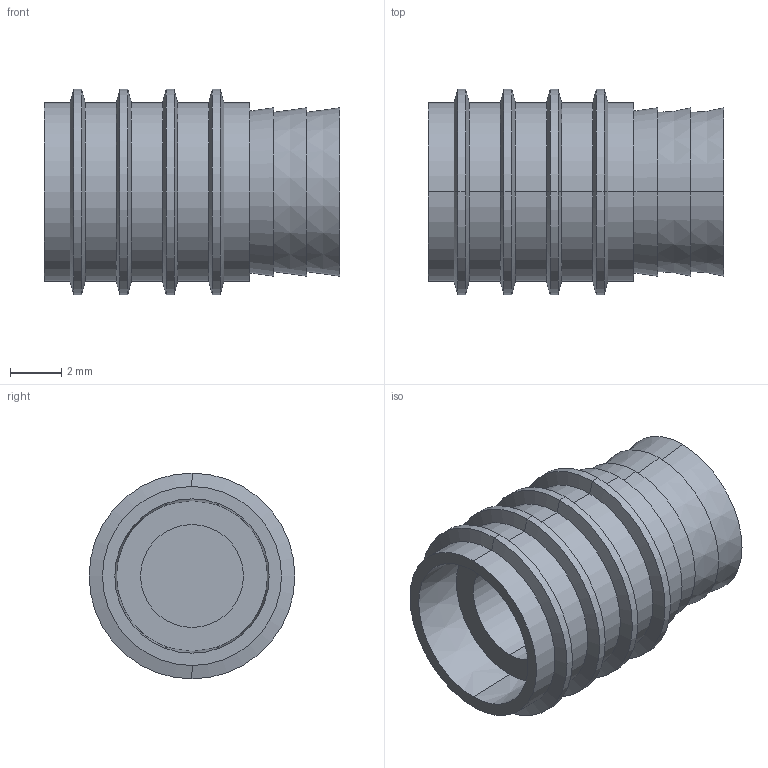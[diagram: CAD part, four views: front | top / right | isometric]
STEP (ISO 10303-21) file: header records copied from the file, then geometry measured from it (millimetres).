
FILE_DESCRIPTION (( 'STEP AP214' ), '1' );
FILE_NAME ('BR942-08.STEP', '2020-06-23T10:10:36', ( '' ), ( '' ), 'SwSTEP 2.0', 'SolidWorks 2018', '' );
FILE_SCHEMA (( 'AUTOMOTIVE_DESIGN' ));
Length unit declared in the file: millimetre
Products named in the file (1): BR942-08
Bounding box: 11.5 x 8 x 8 mm (x, y, z)
Volume: 332.1 mm3; surface area: 498.8 mm2
Topology: 1 solids, 1 shells, 51 faces, 100 edges, 56 vertices
Faces by surface type: cone 24, cylinder 20, plane 7
Entity records: 1328 total; most frequent: DIRECTION 260, CARTESIAN_POINT 208, ORIENTED_EDGE 200, AXIS2_PLACEMENT_3D 108, EDGE_CURVE 100, EDGE_LOOP 56, VERTEX_POINT 56, CIRCLE 56
